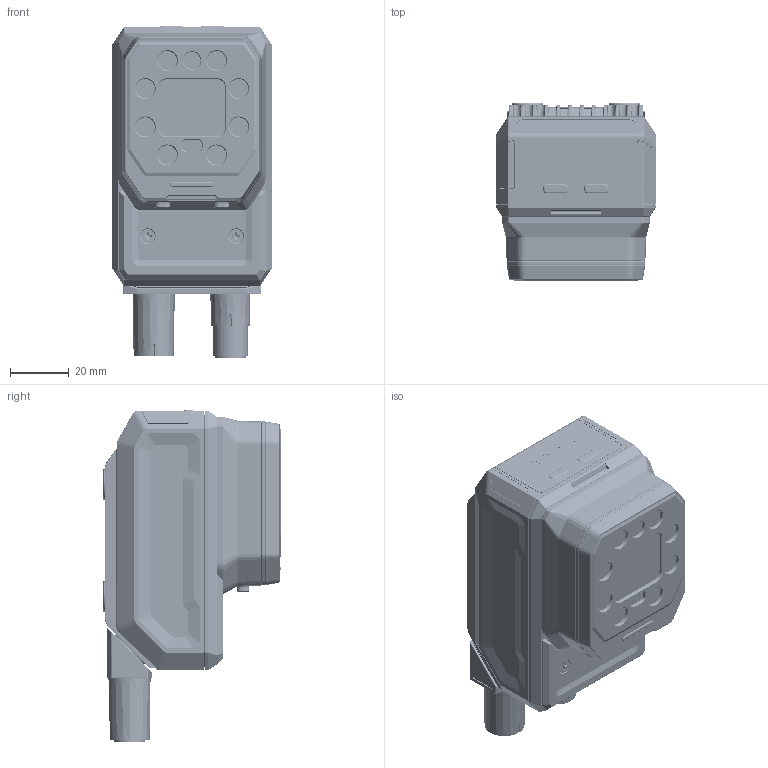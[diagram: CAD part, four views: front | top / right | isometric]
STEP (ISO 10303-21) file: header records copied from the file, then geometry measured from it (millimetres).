
FILE_DESCRIPTION((''),'2;1');
FILE_NAME('00-ID5050XM-ASSY_ASM_1_ASM','2025-11-04T20:00:48',('huguozhe'),(''),'CREO PARAMETRIC BY PTC INC, 2020044','CREO PARAMETRIC BY PTC INC, 2020044','');
FILE_SCHEMA(('AUTOMOTIVE_DESIGN { 1 0 10303 214 1 1 1 1 }'));
Products named in the file (33): DE-13-001803_1; DE-13-001802_ASM_1_ASM; DE-13-001805_1; DE-13-001804_ASM_1_ASM; DE-12-004312_1; DE-12-004313_1; DE-13-001769_1; DE-13-001818_ASM_1_ASM; DE-13-001770_1; DE-13-001771_ASM_1_ASM; DE-20-035185_ASM_1_ASM; L102-M12-ZJ12A01-ALL_1; CNT12-M12-LT08A02_ALL_1; SC-KM2X4NL-BNI-SCM435-GB819_1; SC-KM2X4B-NCL_1; SC-KM2X4B_1; DE-20-023136_ASM_1_ASM; DE-13-001795_1; DE-13-001794_ASM_1_ASM; DE-13-001797_1; DE-13-001796_ASM_1_ASM; DE-12-004304_1; DE-18-000217_1; DE-19-009228-02_1; DE-18-000217-02_ASM_1_ASM; DE-20-023504_ASM_1_ASM; DE-12-004314_1; SC-PM2_5X6-NI-GB823_1; SC-KM2_5X6B-JMF_1; DE-19-010235_1; DE-19-010237_1; DE-19-010235_ASM_1_ASM; 00-ID5050XM-ASSY_ASM_1_ASM
Assembly tree (37 placements, depth 5):
  00-ID5050XM-ASSY_ASM_1_ASM
    DE-13-001802_ASM_1_ASM
      DE-13-001803_1
    DE-13-001804_ASM_1_ASM
      DE-13-001805_1
    DE-12-004312_1
    DE-12-004313_1
    DE-20-023136_ASM_1_ASM
      DE-13-001818_ASM_1_ASM
        DE-13-001769_1
      DE-20-035185_ASM_1_ASM
        DE-13-001771_ASM_1_ASM
          DE-13-001770_1
      L102-M12-ZJ12A01-ALL_1
      CNT12-M12-LT08A02_ALL_1
      SC-KM2X4NL-BNI-SCM435-GB819_1  x2
      SC-KM2X4B-NCL_1
      SC-KM2X4B_1
    DE-20-023504_ASM_1_ASM
      DE-13-001794_ASM_1_ASM
        DE-13-001795_1
      DE-13-001796_ASM_1_ASM
        DE-13-001797_1
      DE-12-004304_1
      DE-18-000217-02_ASM_1_ASM
        DE-18-000217_1
        DE-19-009228-02_1
    DE-12-004314_1
    SC-PM2_5X6-NI-GB823_1  x4
    SC-KM2_5X6B-JMF_1  x2
    DE-19-010235_ASM_1_ASM
      DE-19-010235_1
      DE-19-010237_1
Bounding box: 54 x 60.15 x 112.59 mm (x, y, z)
Volume: 167252 mm3; surface area: 90539.6 mm2
Topology: 26 solids, 120 shells, 5734 faces, 14701 edges, 9141 vertices
Faces by surface type: cylinder 1874, plane 1586, cone 926, torus 767, bspline 530, sphere 44, extrusion 5, revolution 2
Entity records: 240776 total; most frequent: CARTESIAN_POINT 85129, DIRECTION 28063, ORIENTED_EDGE 27698, EDGE_CURVE 13969, AXIS2_PLACEMENT_3D 11223, VERTEX_POINT 8776, CIRCLE 6150, EDGE_LOOP 5867
